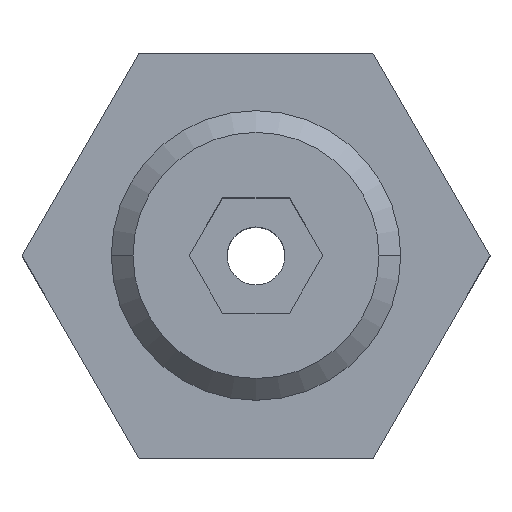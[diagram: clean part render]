
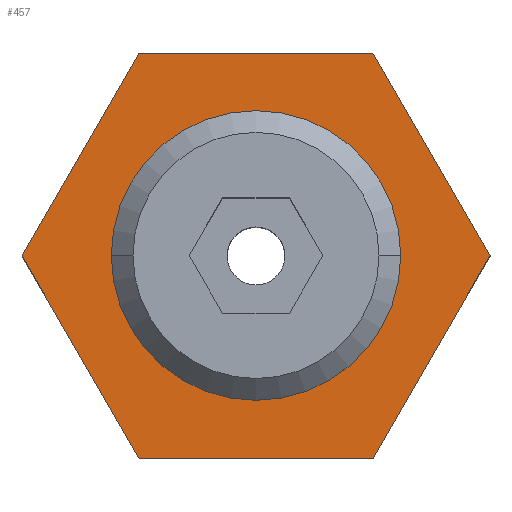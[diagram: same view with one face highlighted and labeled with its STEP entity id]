
A CAD part, top view. The second image highlights one B-rep face of the part: STEP entity #457.
In plain terms, the highlighted planar face has unit normal (0, 0, 1).
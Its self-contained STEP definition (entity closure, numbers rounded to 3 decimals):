
#1 = CARTESIAN_POINT ( 'NONE',  ( -8.083, 0., 5. ) ) ;
#7 = DIRECTION ( 'NONE',  ( 0.5, -0.866, 0. ) ) ;
#12 = FACE_OUTER_BOUND ( 'NONE', #224, .T. ) ;
#50 = CARTESIAN_POINT ( 'NONE',  ( -3.25, 0., 5. ) ) ;
#51 = DIRECTION ( 'NONE',  ( -0.5, 0.866, 0. ) ) ;
#56 = VERTEX_POINT ( 'NONE', #368 ) ;
#67 = ORIENTED_EDGE ( 'NONE', *, *, #467, .T. ) ;
#99 = VECTOR ( 'NONE', #444, 1000. ) ;
#106 = VERTEX_POINT ( 'NONE', #321 ) ;
#123 = EDGE_CURVE ( 'NONE', #428, #106, #574, .T. ) ;
#125 = EDGE_CURVE ( 'NONE', #814, #479, #755, .T. ) ;
#131 = LINE ( 'NONE', #830, #99 ) ;
#142 = VERTEX_POINT ( 'NONE', #262 ) ;
#151 = ORIENTED_EDGE ( 'NONE', *, *, #494, .F. ) ;
#170 = LINE ( 'NONE', #608, #659 ) ;
#189 = DIRECTION ( 'NONE',  ( -0.5, -0.866, 0. ) ) ;
#192 = CARTESIAN_POINT ( 'NONE',  ( 0., 0., 5. ) ) ;
#208 = CARTESIAN_POINT ( 'NONE',  ( 4.041, 7., 5. ) ) ;
#224 = EDGE_LOOP ( 'NONE', ( #582, #473, #796, #692, #67, #273 ) ) ;
#228 = VERTEX_POINT ( 'NONE', #208 ) ;
#254 = DIRECTION ( 'NONE',  ( 1., 0., 0. ) ) ;
#262 = CARTESIAN_POINT ( 'NONE',  ( -4.041, 7., 5. ) ) ;
#263 = CIRCLE ( 'NONE', #719, 3.25 ) ;
#270 = CARTESIAN_POINT ( 'NONE',  ( 3.25, 0., 5. ) ) ;
#272 = DIRECTION ( 'NONE',  ( 0., 0., 1. ) ) ;
#273 = ORIENTED_EDGE ( 'NONE', *, *, #123, .T. ) ;
#292 = VECTOR ( 'NONE', #51, 1000. ) ;
#295 = EDGE_CURVE ( 'NONE', #56, #228, #835, .T. ) ;
#315 = EDGE_CURVE ( 'NONE', #228, #142, #131, .T. ) ;
#320 = VECTOR ( 'NONE', #189, 1000. ) ;
#321 = CARTESIAN_POINT ( 'NONE',  ( 4.041, -7., 5. ) ) ;
#347 = FACE_BOUND ( 'NONE', #603, .T. ) ;
#368 = CARTESIAN_POINT ( 'NONE',  ( 8.083, 0., 5. ) ) ;
#371 = AXIS2_PLACEMENT_3D ( 'NONE', #599, #590, #714 ) ;
#378 = EDGE_CURVE ( 'NONE', #142, #476, #816, .T. ) ;
#407 = CARTESIAN_POINT ( 'NONE',  ( -4.041, -7., 5. ) ) ;
#428 = VERTEX_POINT ( 'NONE', #407 ) ;
#431 = DIRECTION ( 'NONE',  ( 0.5, 0.866, 0. ) ) ;
#444 = DIRECTION ( 'NONE',  ( -1., 0., 0. ) ) ;
#457 = ADVANCED_FACE ( 'NONE', ( #347, #12 ), #539, .T. ) ;
#467 = EDGE_CURVE ( 'NONE', #476, #428, #526, .T. ) ;
#473 = ORIENTED_EDGE ( 'NONE', *, *, #295, .T. ) ;
#476 = VERTEX_POINT ( 'NONE', #585 ) ;
#479 = VERTEX_POINT ( 'NONE', #270 ) ;
#480 = CARTESIAN_POINT ( 'NONE',  ( 0., 0., 5. ) ) ;
#494 = EDGE_CURVE ( 'NONE', #479, #814, #263, .T. ) ;
#526 = LINE ( 'NONE', #1, #748 ) ;
#528 = VECTOR ( 'NONE', #254, 1000. ) ;
#539 = PLANE ( 'NONE',  #371 ) ;
#574 = LINE ( 'NONE', #639, #528 ) ;
#582 = ORIENTED_EDGE ( 'NONE', *, *, #711, .T. ) ;
#585 = CARTESIAN_POINT ( 'NONE',  ( -8.083, 0., 5. ) ) ;
#590 = DIRECTION ( 'NONE',  ( 0., 0., 1. ) ) ;
#599 = CARTESIAN_POINT ( 'NONE',  ( 0., 0., 5. ) ) ;
#603 = EDGE_LOOP ( 'NONE', ( #802, #151 ) ) ;
#608 = CARTESIAN_POINT ( 'NONE',  ( 4.041, -7., 5. ) ) ;
#639 = CARTESIAN_POINT ( 'NONE',  ( -4.041, -7., 5. ) ) ;
#659 = VECTOR ( 'NONE', #431, 1000. ) ;
#692 = ORIENTED_EDGE ( 'NONE', *, *, #378, .T. ) ;
#694 = CARTESIAN_POINT ( 'NONE',  ( 8.083, 0., 5. ) ) ;
#704 = AXIS2_PLACEMENT_3D ( 'NONE', #192, #837, #706 ) ;
#706 = DIRECTION ( 'NONE',  ( 1., 0., 0. ) ) ;
#711 = EDGE_CURVE ( 'NONE', #106, #56, #170, .T. ) ;
#714 = DIRECTION ( 'NONE',  ( 1., 0., 0. ) ) ;
#719 = AXIS2_PLACEMENT_3D ( 'NONE', #480, #272, #735 ) ;
#735 = DIRECTION ( 'NONE',  ( 1., 0., 0. ) ) ;
#748 = VECTOR ( 'NONE', #7, 1000. ) ;
#755 = CIRCLE ( 'NONE', #704, 3.25 ) ;
#757 = CARTESIAN_POINT ( 'NONE',  ( -4.041, 7., 5. ) ) ;
#796 = ORIENTED_EDGE ( 'NONE', *, *, #315, .T. ) ;
#802 = ORIENTED_EDGE ( 'NONE', *, *, #125, .F. ) ;
#814 = VERTEX_POINT ( 'NONE', #50 ) ;
#816 = LINE ( 'NONE', #757, #320 ) ;
#830 = CARTESIAN_POINT ( 'NONE',  ( 4.041, 7., 5. ) ) ;
#835 = LINE ( 'NONE', #694, #292 ) ;
#837 = DIRECTION ( 'NONE',  ( 0., 0., 1. ) ) ;
